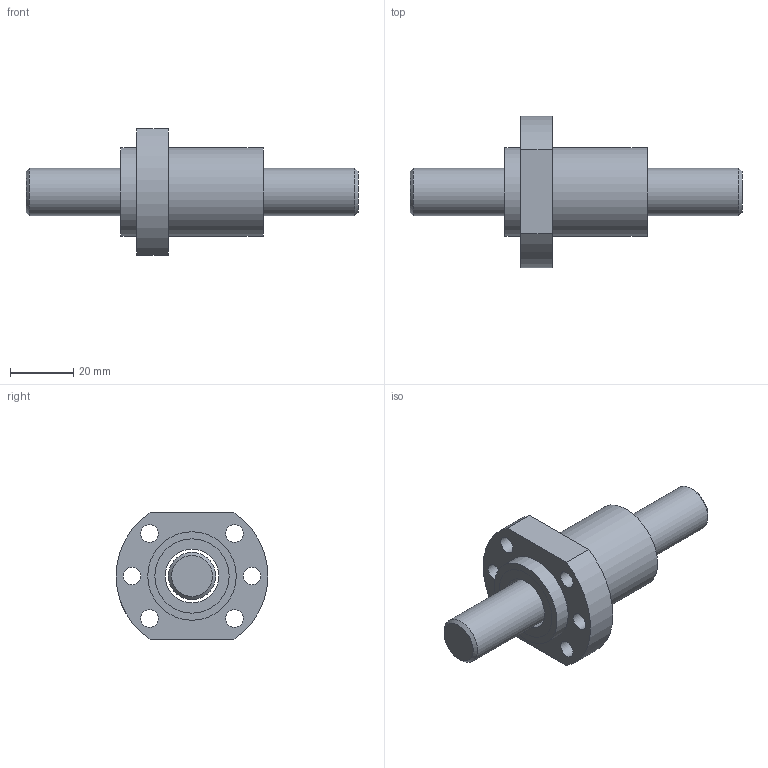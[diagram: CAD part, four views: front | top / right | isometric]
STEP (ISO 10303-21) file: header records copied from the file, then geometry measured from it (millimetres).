
FILE_DESCRIPTION (( 'STEP AP203' ), '1' );
FILE_NAME ('SFNH1616-1.8.STEP', '2023-07-28T00:27:33', ( '' ), ( '' ), 'SwSTEP 2.0', 'SolidWorks 2022', '' );
FILE_SCHEMA (( 'CONFIG_CONTROL_DESIGN' ));
Length unit declared in the file: millimetre
Products named in the file (1): SFNH1616-1.8
Bounding box: 105 x 48 x 40 mm (x, y, z)
Volume: 44810 mm3; surface area: 19360.6 mm2
Topology: 4 solids, 4 shells, 62 faces, 124 edges, 82 vertices
Faces by surface type: cylinder 33, plane 23, cone 3, bspline 3
Full cylindrical faces by diameter (mm): 4 x1, 5 x5, 5.5 x6, 15 x1, 17 x3, 20 x4, 23.5 x4, 25 x4, 28 x2
Entity records: 2508 total; most frequent: CARTESIAN_POINT 1344, DIRECTION 234, ORIENTED_EDGE 154, EDGE_LOOP 118, AXIS2_PLACEMENT_3D 111, FACE_OUTER_BOUND 83, EDGE_CURVE 77, VERTEX_POINT 69
